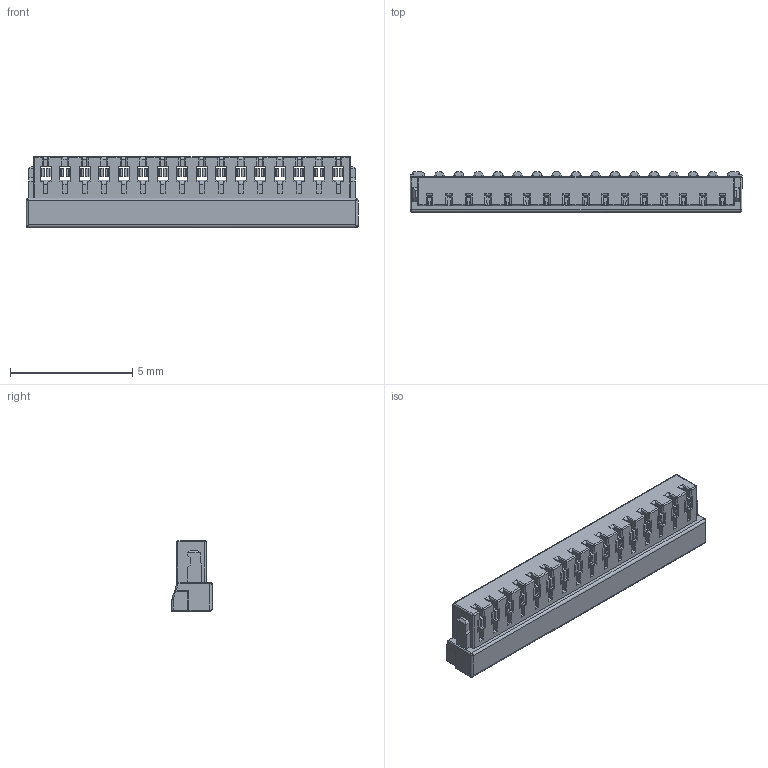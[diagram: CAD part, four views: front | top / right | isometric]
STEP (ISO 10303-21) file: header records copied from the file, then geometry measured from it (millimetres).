
FILE_DESCRIPTION((''),'2;1');
FILE_NAME('SCT0800HI-16','2023-03-26T10:23:37',('Administrator'),(''),'CREO PARAMETRIC BY PTC INC, 2018050','CREO PARAMETRIC BY PTC INC, 2018050','');
FILE_SCHEMA(('CONFIG_CONTROL_DESIGN'));
Products named in the file (1): SCT0800HI-16
Bounding box: 13.6 x 1.65 x 2.9 mm (x, y, z)
Surface area: 260.1 mm2 (no closed solid volume)
Topology: 0 solids, 1 shells, 2795 faces, 8146 edges, 5143 vertices
Faces by surface type: plane 1884, cylinder 821, sphere 84, bspline 5, torus 1
Entity records: 91585 total; most frequent: CARTESIAN_POINT 16961, ORIENTED_EDGE 16183, DIRECTION 15141, EDGE_CURVE 8097, VECTOR 6343, LINE 6343, VERTEX_POINT 5143, AXIS2_PLACEMENT_3D 4399
